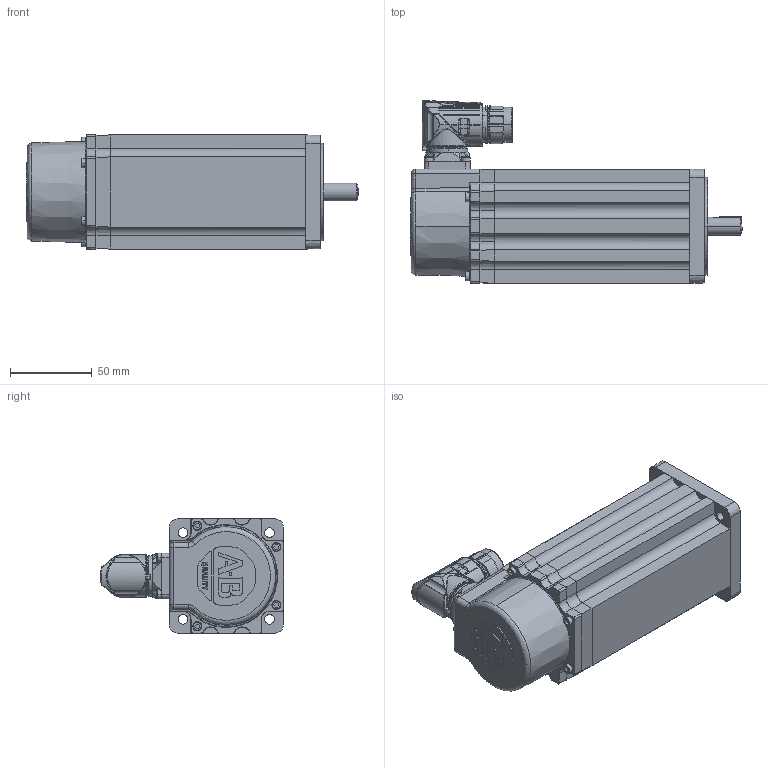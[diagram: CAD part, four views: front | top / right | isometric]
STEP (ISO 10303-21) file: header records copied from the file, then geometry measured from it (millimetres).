
FILE_DESCRIPTION (( 'STEP AP214' ), '1' );
FILE_NAME ('Rockwell Automation-$PARTNUMBER.STEP', '2014-03-13T15:50:14', ( 'Windows User' ), ( '' ), 'SwSTEP 2.0', 'SolidWorks 2014', '' );
FILE_SCHEMA (( 'AUTOMOTIVE_DESIGN' ));
Length unit declared in the file: inch
Products named in the file (27): Rockwell Automation-$PARTNUMBER_Rockwell Automation-VPL-x0752x-xJx4xx_FRONT_1; Rockwell Automation-$PARTNUMBER_Rockwell Automation-VPL-x0752x-xJx4xx_tab; Rockwell Automation-$PARTNUMBER_Rockwell Automation-VPL-x0752x-xJx4xx_vpl-075_0752-break; Rockwell Automation-$PARTNUMBER_Rockwell Automation-VPL-x0752x-xJx4xx_10000169222_ANY_1; Rockwell Automation-$PARTNUMBER_Rockwell Automation-VPL-x0752x-xJx4xx_FRONT_withkey_075_shaft_Shaft_J_2_4; Rockwell Automation-$PARTNUMBER_Rockwell Automation-VPL-x0752x-xJx4xx_10000206536_ASM_ANY_ASM_1; Rockwell Automation-$PARTNUMBER_Rockwell Automation-VPL-x0752x-xJx4xx_0011-G402_ANY_2; Rockwell Automation-$PARTNUMBER_Rockwell Automation-VPL-x0752x-xJx4xx_10000206535_AF0_ANY_1; Rockwell Automation-$PARTNUMBER_Rockwell Automation-VPL-x0752x-xJx4xx_REAR_ASM_ANY_ASM; Rockwell Automation-$PARTNUMBER_Rockwell Automation-VPL-x0752x-xJx4xx_10000210273_AF2_ANY_1; Rockwell Automation-$PARTNUMBER_Rockwell Automation-VPL-x0752x-xJx4xx_PRT0002; Rockwell Automation-$PARTNUMBER_Rockwell Automation-VPL-x0752x-xJx4xx_10000213398_ANY_1; Rockwell Automation-$PARTNUMBER_Rockwell Automation-VPL-x0752x-xJx4xx_PRT0001; Rockwell Automation-$PARTNUMBER_Rockwell Automation-VPL-x0752x-xJx4xx_vpl-middle-075_0752-Break; Rockwell Automation-$PARTNUMBER_Rockwell Automation-VPL-x0752x-xJx4xx_10000220495_ASM_1_ANY_ASM; Rockwell Automation-$PARTNUMBER_Rockwell Automation-VPL-x0752x-xJx4xx_10000206533_AF0_ANY; Rockwell Automation-$PARTNUMBER; Rockwell Automation-$PARTNUMBER_Rockwell Automation-VPL-x0752x-xJx4xx_10000220495_ASM_ANY; Rockwell Automation-$PARTNUMBER_Rockwell Automation-VPL-x0752x-xJx4xx_10000205606_AF31_ANY; Rockwell Automation-$PARTNUMBER_Rockwell Automation-VPL-x0752x-xJx4xx_10000218021_ANY; Rockwell Automation-$PARTNUMBER_Rockwell Automation-VPL-x0752x-xJx4xx_91290A115_ANY; Rockwell Automation-$PARTNUMBER_Rockwell Automation-VPL-x0752x-xJx4xx_M23_Connector; Rockwell Automation-$PARTNUMBER_Rockwell Automation-VPL-x0752x-xJx4xx_10000014326-M23_ASM; Rockwell Automation-$PARTNUMBER_Rockwell Automation-VPL-x0752x-xJx4xx_10000014326-1; Rockwell Automation-$PARTNUMBER_Rockwell Automation-VPL-x0752x-xJx4xx_10000014325-1; Rockwell Automation-$PARTNUMBER_Rockwell Automation-VPL-x0752x-xJx4xx_10000540833; Rockwell Automation-$PARTNUMBER_Rockwell Automation-VPL-x0752x-xJx4xx_FRONT_without key_1
Assembly tree (36 placements, depth 6):
  Rockwell Automation-$PARTNUMBER_Rockwell Automation-VPL-x0752x-xJx4xx_tab
  Rockwell Automation-$PARTNUMBER
    Rockwell Automation-$PARTNUMBER_Rockwell Automation-VPL-x0752x-xJx4xx_vpl-075_0752-break
      Rockwell Automation-$PARTNUMBER_Rockwell Automation-VPL-x0752x-xJx4xx_vpl-middle-075_0752-Break
      Rockwell Automation-$PARTNUMBER_Rockwell Automation-VPL-x0752x-xJx4xx_FRONT_without key_1
        Rockwell Automation-$PARTNUMBER_Rockwell Automation-VPL-x0752x-xJx4xx_FRONT_1
          Rockwell Automation-$PARTNUMBER_Rockwell Automation-VPL-x0752x-xJx4xx_10000213398_ANY_1
          Rockwell Automation-$PARTNUMBER_Rockwell Automation-VPL-x0752x-xJx4xx_10000206536_ASM_ANY_ASM_1
            Rockwell Automation-$PARTNUMBER_Rockwell Automation-VPL-x0752x-xJx4xx_10000210273_AF2_ANY_1
            Rockwell Automation-$PARTNUMBER_Rockwell Automation-VPL-x0752x-xJx4xx_10000206535_AF0_ANY_1
          Rockwell Automation-$PARTNUMBER_Rockwell Automation-VPL-x0752x-xJx4xx_10000169222_ANY_1  x4
      Rockwell Automation-$PARTNUMBER_Rockwell Automation-VPL-x0752x-xJx4xx_REAR_ASM_ANY_ASM
        Rockwell Automation-$PARTNUMBER_Rockwell Automation-VPL-x0752x-xJx4xx_M23_Connector
          Rockwell Automation-$PARTNUMBER_Rockwell Automation-VPL-x0752x-xJx4xx_10000540833
          Rockwell Automation-$PARTNUMBER_Rockwell Automation-VPL-x0752x-xJx4xx_10000014325-1
          Rockwell Automation-$PARTNUMBER_Rockwell Automation-VPL-x0752x-xJx4xx_10000014326-M23_ASM
            Rockwell Automation-$PARTNUMBER_Rockwell Automation-VPL-x0752x-xJx4xx_10000014326-1
        Rockwell Automation-$PARTNUMBER_Rockwell Automation-VPL-x0752x-xJx4xx_91290A115_ANY  x4
        Rockwell Automation-$PARTNUMBER_Rockwell Automation-VPL-x0752x-xJx4xx_10000218021_ANY  x2
        Rockwell Automation-$PARTNUMBER_Rockwell Automation-VPL-x0752x-xJx4xx_10000220495_ASM_1_ANY_ASM
          Rockwell Automation-$PARTNUMBER_Rockwell Automation-VPL-x0752x-xJx4xx_10000205606_AF31_ANY
          Rockwell Automation-$PARTNUMBER_Rockwell Automation-VPL-x0752x-xJx4xx_10000220495_ASM_ANY  x2
          Rockwell Automation-$PARTNUMBER_Rockwell Automation-VPL-x0752x-xJx4xx_10000206533_AF0_ANY
        Rockwell Automation-$PARTNUMBER_Rockwell Automation-VPL-x0752x-xJx4xx_PRT0001  x4
        Rockwell Automation-$PARTNUMBER_Rockwell Automation-VPL-x0752x-xJx4xx_PRT0002
      Rockwell Automation-$PARTNUMBER_Rockwell Automation-VPL-x0752x-xJx4xx_0011-G402_ANY_2
      Rockwell Automation-$PARTNUMBER_Rockwell Automation-VPL-x0752x-xJx4xx_FRONT_withkey_075_shaft_Shaft_J_2_4
Bounding box: 203.5 x 112.23 x 70.31 mm (x, y, z)
Volume: 275440.6 mm3; surface area: 175715.5 mm2
Topology: 22 solids, 42 shells, 3125 faces, 8577 edges, 5556 vertices
Faces by surface type: cylinder 1013, plane 942, bspline 786, cone 382, torus 2
Entity records: 161226 total; most frequent: CARTESIAN_POINT 88035, ORIENTED_EDGE 14407, DIRECTION 8514, EDGE_CURVE 7222, VERTEX_POINT 4739, B_SPLINE_CURVE_WITH_KNOTS 3661, AXIS2_PLACEMENT_3D 3188, EDGE_LOOP 2769
